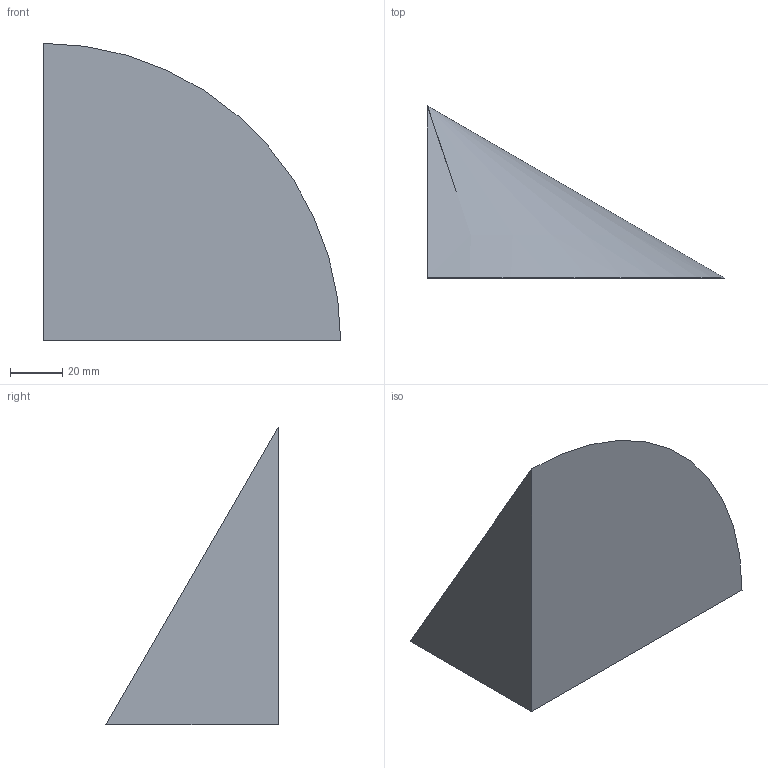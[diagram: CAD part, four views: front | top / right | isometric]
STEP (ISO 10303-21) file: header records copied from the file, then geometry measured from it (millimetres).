
FILE_DESCRIPTION(('CATIA V5 STEP Exchange'),'2;1');
FILE_NAME('C:\_Andres\UNIVERSIDAD\IQS\ASIGNATURAS\DAO\EXF\EXF-16172c\2inicio\Homs_Menis_Ej07_v14.stp','2017-03-05T21:18:12+00:00',('none'),('none'),'CATIA Version 5-6 Release 2014 SP1 HF18','CATIA V5 STEP AP203','none');
FILE_SCHEMA(('CONFIG_CONTROL_DESIGN'));
Length unit declared in the file: millimetre
Products named in the file (1): Homs_Menis_Ej07_v14
Bounding box: 114 x 66 x 114 mm (x, y, z)
Volume: 224554.8 mm3; surface area: 29525.3 mm2
Topology: 1 solids, 1 shells, 4 faces, 7 edges, 4 vertices
Faces by surface type: plane 3, cone 1
Entity records: 131 total; most frequent: CARTESIAN_POINT 15, DIRECTION 14, ORIENTED_EDGE 12, AXIS2_PLACEMENT_3D 6, EDGE_CURVE 6, VECTOR 5, LINE 5, ADVANCED_FACE 4
